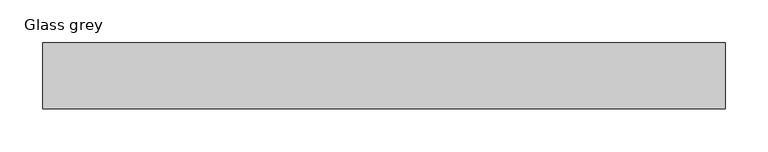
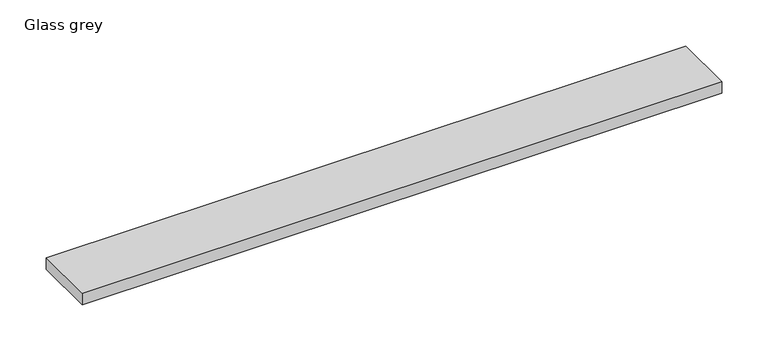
"""IFC4 building model written with IfcOpenShell, lengths in millimetres: sanitary terminal geometry, ZZZ_do not use_PF_UN_grating for ShowerDrain E and M series_ACO : Glass grey."""

import ifcopenshell
import ifcopenshell.guid

model = None  # the IFC model being written
_history = None  # IfcOwnerHistory: only IFC2X3 demands one
_inside = {}  # id of a spatial element -> (the spatial element, [elements in it])
_under = {}  # id of a project, library or spatial element -> (it, [spatial elements below it])
_declared = {}  # id of a project -> (the project, [libraries it declares])
_typed = {}  # id of a type object -> (the type object, [elements of that type])
_made_of = {}  # id of a material, layer set ... -> (it, [elements and type objects made of it])


def new_model(schema):
    """Start an empty IFC model of exactly this schema.

    Asked for "IFC4X3", IfcOpenShell would pick the latest addendum, in which some entities
    have other attributes; the version numbers below select the first issue.
    IFC2X3 requires an IfcOwnerHistory on every rooted entity: one is made here for all.
    """
    global model, _history
    if schema == "IFC4X3":
        model = ifcopenshell.file(schema_version=(4, 3, 0, 0))
    else:
        model = ifcopenshell.file(schema=schema)
    _inside.clear()
    _under.clear()
    _declared.clear()
    _typed.clear()
    _made_of.clear()
    _history = None
    if model.schema == "IFC2X3":
        org = make("IfcOrganization", Name="unknown")
        user = make(
            "IfcPersonAndOrganization",
            ThePerson=make("IfcPerson", FamilyName="unknown"),
            TheOrganization=org,
        )
        app = make(
            "IfcApplication",
            ApplicationDeveloper=org,
            Version="unknown",
            ApplicationFullName="unknown",
            ApplicationIdentifier="unknown",
        )
        _history = make(
            "IfcOwnerHistory",
            OwningUser=user,
            OwningApplication=app,
            ChangeAction="ADDED",
            CreationDate=0,
        )
    return model


def make(cls, **values):
    """One entity of the class cls with the attributes given. An attribute that is None is left unset."""
    return model.create_entity(
        cls, **{name: value for name, value in values.items() if value is not None}
    )


def rooted(cls, **values):
    """An entity with a GlobalId (a new one), such as an element, a storey or a relation."""
    return make(cls, GlobalId=ifcopenshell.guid.new(), OwnerHistory=_history, **values)


def si_unit(unit_type, name, prefix=None):
    """IfcSIUnit, for example si_unit("LENGTHUNIT", "METRE", prefix="MILLI")."""
    return make("IfcSIUnit", UnitType=unit_type, Prefix=prefix, Name=name)


def assignment(units):
    """IfcUnitAssignment: the units of a project."""
    return None if units is None else make("IfcUnitAssignment", Units=units)


def point(xyz):
    """IfcCartesianPoint."""
    return None if xyz is None else make("IfcCartesianPoint", Coordinates=xyz)


def direction(xyz):
    """IfcDirection."""
    return None if xyz is None else make("IfcDirection", DirectionRatios=xyz)


def frame(location, z_axis=None, x_axis=None):
    """IfcAxis2Placement3D, a coordinate frame: its origin and axes. An axis left out is left unset."""
    return make(
        "IfcAxis2Placement3D",
        Location=point(location),
        Axis=direction(z_axis),
        RefDirection=direction(x_axis),
    )


def origin():
    """The frame at (0, 0, 0) with its axes left unset."""
    return frame((0.0, 0.0, 0.0))


def place(relative_to, where):
    """IfcLocalPlacement: puts the frame where relative to a parent placement (None: the world)."""
    return make(
        "IfcLocalPlacement", PlacementRelTo=relative_to, RelativePlacement=where
    )


def context(
    kind, dimensions, precision=None, world=None, true_north=None, identifier=None
):
    """IfcGeometricRepresentationContext, for example the 3D "Model" context."""
    return make(
        "IfcGeometricRepresentationContext",
        ContextIdentifier=identifier,
        ContextType=kind,
        CoordinateSpaceDimension=dimensions,
        Precision=precision,
        WorldCoordinateSystem=world,
        TrueNorth=true_north,
    )


def project(units=None, contexts=None):
    """IfcProject with its units and contexts."""
    return rooted(
        "IfcProject",
        Name="project",
        RepresentationContexts=contexts,
        UnitsInContext=assignment(units),
    )


def spatial(cls, under=None, at=None, **own):
    """A site, building, storey or space (cls), placed at a placement, below another one or the project."""
    s = rooted(cls, ObjectPlacement=at, **own)
    if under is not None:
        _under.setdefault(under.id(), (under, []))[1].append(s)
    return s


def polyline(points):
    """IfcPolyline through the points."""
    return make("IfcPolyline", Points=[point(p) for p in points])


def outline(outer, holes=None, kind="AREA"):
    """IfcArbitraryClosedProfileDef: a profile drawn as a closed curve; with holes, ...WithVoids."""
    if holes is None:
        return make("IfcArbitraryClosedProfileDef", ProfileType=kind, OuterCurve=outer)
    return make(
        "IfcArbitraryProfileDefWithVoids",
        ProfileType=kind,
        OuterCurve=outer,
        InnerCurves=holes,
    )


def extrude(swept, where, along, depth):
    """IfcExtrudedAreaSolid: the profile swept, set in the frame where, extruded along a direction by depth."""
    return make(
        "IfcExtrudedAreaSolid",
        SweptArea=swept,
        Position=where,
        ExtrudedDirection=direction(along),
        Depth=depth,
    )


def shape(context_of_items, identifier, shape_type, items):
    """IfcShapeRepresentation: the items that make up one representation, for example the "Body"."""
    return make(
        "IfcShapeRepresentation",
        ContextOfItems=context_of_items,
        RepresentationIdentifier=identifier,
        RepresentationType=shape_type,
        Items=items,
    )


def source(mapping_origin, context_of_items, identifier, shape_type, items):
    """IfcRepresentationMap: a shape defined once, which mapped items show again and again."""
    return make(
        "IfcRepresentationMap",
        MappingOrigin=mapping_origin,
        MappedRepresentation=shape(context_of_items, identifier, shape_type, items),
    )


def transform(
    local_origin,
    x_axis=None,
    y_axis=None,
    z_axis=None,
    scale=None,
    scale2=None,
    scale3=None,
    uniform=True,
):
    """IfcCartesianTransformationOperator3D, or its non-uniform kind. x_axis, y_axis, z_axis: its Axis1, 2, 3."""
    if uniform:
        return make(
            "IfcCartesianTransformationOperator3D",
            Axis1=direction(x_axis),
            Axis2=direction(y_axis),
            LocalOrigin=point(local_origin),
            Scale=scale,
            Axis3=direction(z_axis),
        )
    return make(
        "IfcCartesianTransformationOperator3DnonUniform",
        Axis1=direction(x_axis),
        Axis2=direction(y_axis),
        LocalOrigin=point(local_origin),
        Scale=scale,
        Axis3=direction(z_axis),
        Scale2=scale2,
        Scale3=scale3,
    )


def mapped(mapping_source, mapping_target):
    """IfcMappedItem: shows the shape of a source again, moved by a transform."""
    return make(
        "IfcMappedItem", MappingSource=mapping_source, MappingTarget=mapping_target
    )


def made_of(thing, what):
    """Note that an element or type object is made of a material, layer set ...; save() writes the relation."""
    if what is not None:
        _made_of.setdefault(what.id(), (what, []))[1].append(thing)
    return thing


def element(
    cls,
    number,
    at=None,
    inside=None,
    cuts=None,
    type_object=None,
    material=None,
    context=None,
    identifier="Body",
    shape_type=None,
    held_by="IfcProductDefinitionShape",
    body=None,
    shapes=None,
    **own,
):
    """One element of the class cls, such as IfcWall. Its Tag is "e" and its number.

    at: its placement. inside: the storey or other place that contains it. cuts: it is an
    opening in that element (IfcRelVoidsElement). A single representation is given by context,
    identifier, shape_type and body (its items); several are given by shapes. held_by: the class
    of the entity that holds the representations. save() writes the other relations.
    """
    e = rooted(cls, Tag="e%d" % number, ObjectPlacement=at, **own)
    if body is not None:
        shapes = [shape(context, identifier, shape_type, body)]
    if shapes is not None:
        e.Representation = make(held_by, Representations=shapes)
    if inside is not None:
        _inside.setdefault(inside.id(), (inside, []))[1].append(e)
    if cuts is not None:
        rooted(
            "IfcRelVoidsElement", RelatingBuildingElement=cuts, RelatedOpeningElement=e
        )
    if type_object is not None:
        _typed.setdefault(type_object.id(), (type_object, []))[1].append(e)
    return made_of(e, material)


def aggregate(whole, parts):
    """IfcRelAggregates: a whole, such as a stair, and the parts it consists of."""
    return rooted("IfcRelAggregates", RelatingObject=whole, RelatedObjects=parts)


def save(model, path):
    """Write the relations noted so far, then the file.

    IfcRelAggregates (storeys below a building ...), IfcRelContainedInSpatialStructure (elements
    in a storey), IfcRelDefinesByType, IfcRelAssociatesMaterial and IfcRelDeclares: one each for
    every whole, place, type object, material and project.
    """
    for whole, parts in _under.values():
        aggregate(whole, parts)
    for where, things in _inside.values():
        rooted(
            "IfcRelContainedInSpatialStructure",
            RelatedElements=things,
            RelatingStructure=where,
        )
    for kind, things in _typed.values():
        rooted("IfcRelDefinesByType", RelatedObjects=things, RelatingType=kind)
    for what, things in _made_of.values():
        rooted("IfcRelAssociatesMaterial", RelatedObjects=things, RelatingMaterial=what)
    for by, libraries in _declared.values():
        rooted("IfcRelDeclares", RelatingContext=by, RelatedDefinitions=libraries)
    model.write(path)


def glass_grey_45471304(model_context):
    return source(origin(), model_context, "Body", "SweptSolid", [
        extrude(outline(polyline([(398.0, 38.5), (398.0, -38.5), (-398.0, -38.5), (-398.0, 38.5), (398.0, 38.5)])), frame((0.0, 0.0, -15.0), z_axis=(0.0, 0.0, 1.0), x_axis=(1.0, 0.0, 0.0)), (0.0, 0.0, 1.0), 15.0),
    ])


if __name__ == "__main__":
    model = new_model("IFC4")
    model_context = context("Model", 3, world=origin())
    ifc_project = project(units=[si_unit("LENGTHUNIT", "METRE", prefix="MILLI")], contexts=[model_context])
    site = spatial("IfcSite", under=ifc_project)
    building = spatial("IfcBuilding", under=site)
    placement = place(None, origin())
    glass_grey_shape = glass_grey_45471304(model_context)
    element("IfcSanitaryTerminal", 1, ObjectType="ZZZ_do not use_PF_UN_grating for ShowerDrain E and M series_ACO : Glass grey", at=placement, inside=building, context=model_context, shape_type="MappedRepresentation", body=[
        mapped(glass_grey_shape, transform((0.0, 0.0, 0.0), x_axis=(1.0, 0.0, 0.0), y_axis=(0.0, 1.0, 0.0), z_axis=(0.0, 0.0, 1.0))),
    ])
    save(model, "model.ifc")
